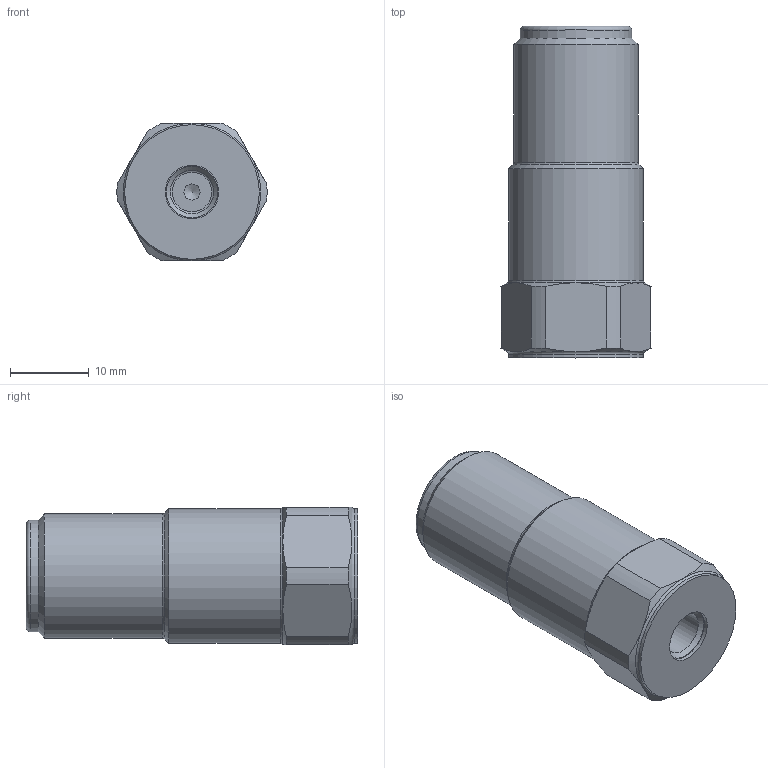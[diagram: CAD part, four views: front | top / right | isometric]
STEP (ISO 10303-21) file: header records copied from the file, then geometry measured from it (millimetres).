
FILE_DESCRIPTION(/* description */ (''),/* implementation_level */ '2;1');
FILE_NAME(/* name */ 'C:\Users\jfriend\Desktop\----Step files\Meredith Christman\603C01\603C01.stp',/* time_stamp */ '2019-12-11T10:29:00-05:00',/* author */ ('jfriend'),/* organization */ (''),/* preprocessor_version */ 'ST-DEVELOPER v17',/* originating_system */ 'Autodesk Inventor 2019',/* authorisation */ '');
FILE_SCHEMA (('AUTOMOTIVE_DESIGN { 1 0 10303 214 3 1 1 }'));
Length unit declared in the file: inch
Products named in the file (1): 603C01 
Bounding box: 19.04 x 42.09 x 17.45 mm (x, y, z)
Volume: 7542.3 mm3; surface area: 3475.2 mm2
Topology: 1 solids, 1 shells, 74 faces, 181 edges, 118 vertices
Faces by surface type: cylinder 24, cone 21, plane 19, torus 8, bspline 2
Full cylindrical faces by diameter (mm): 0.762 x1, 1.016 x2, 1.549 x2, 3.188 x2, 5.537 x1, 6.756 x1, 11.684 x1, 14.148 x1, 15.748 x1, 17.069 x2
Entity records: 2431 total; most frequent: CARTESIAN_POINT 539, DIRECTION 401, ORIENTED_EDGE 356, EDGE_CURVE 178, AXIS2_PLACEMENT_3D 178, VERTEX_POINT 118, CIRCLE 105, EDGE_LOOP 88
